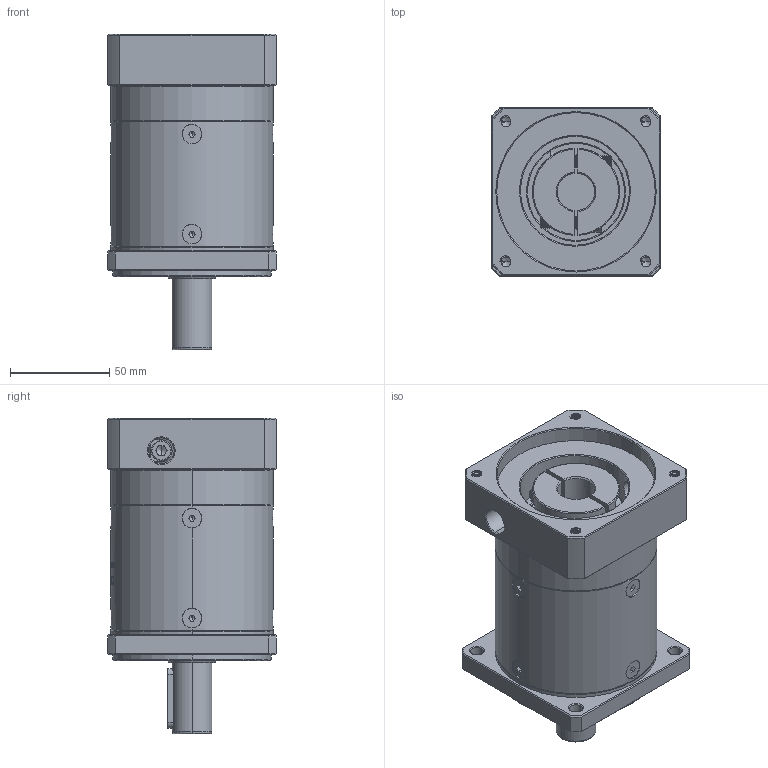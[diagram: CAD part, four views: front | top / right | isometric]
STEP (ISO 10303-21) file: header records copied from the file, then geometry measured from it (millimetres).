
FILE_DESCRIPTION (( 'STEP AP214' ), '1' );
FILE_NAME ('ZF80-D20-L2-19-80-100-M6.step', '2022-05-08T09:15:32', ( '' ), ( 'Microsoft' ), 'SwSTEP 2.0', 'SolidWorks 2016', '' );
FILE_SCHEMA (( 'AUTOMOTIVE_DESIGN' ));
Length unit declared in the file: millimetre
Products named in the file (1): ZF80-D20-L2-19-80-100-M6
Bounding box: 85 x 85 x 159.5 mm (x, y, z)
Volume: 637668.4 mm3; surface area: 94012.3 mm2
Topology: 13 solids, 13 shells, 1980 faces, 5121 edges, 3235 vertices
Faces by surface type: plane 896, cylinder 408, cone 339, bspline 320, torus 17
Entity records: 107722 total; most frequent: CARTESIAN_POINT 41263, ORIENTED_EDGE 10182, DIRECTION 8027, EDGE_CURVE 5091, VERTEX_POINT 3235, LINE 2761, VECTOR 2761, AXIS2_PLACEMENT_3D 2633
